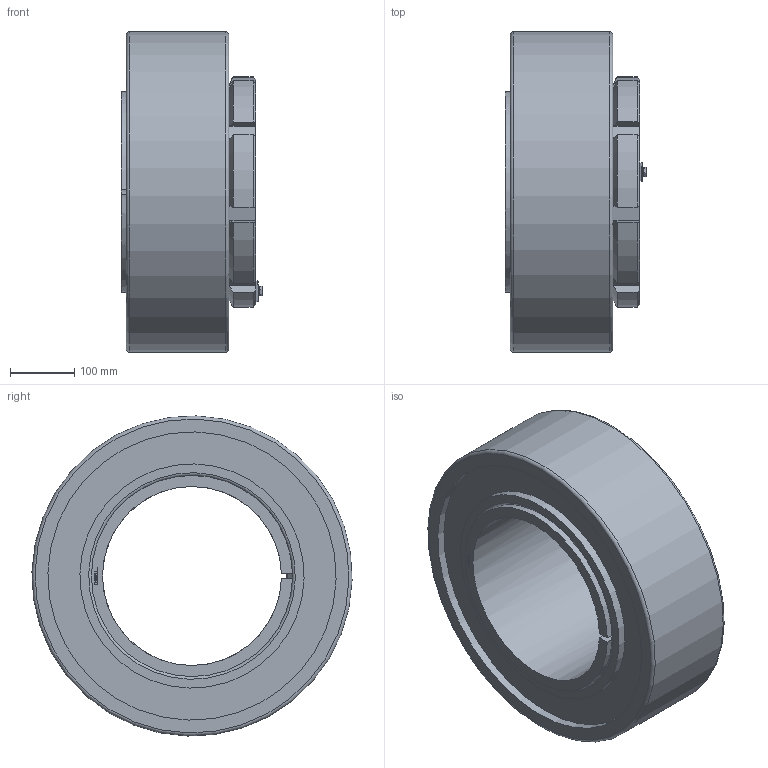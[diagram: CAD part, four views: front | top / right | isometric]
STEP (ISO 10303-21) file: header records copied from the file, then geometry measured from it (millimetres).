
FILE_DESCRIPTION( ( 'STEP AP203' ), ' ' );
FILE_NAME( 'p:/temp/worker_127/4068_3820/app_90_02016102823041991313729192d056f_000000_00_00_000000/format_0/BGL HE 3160 TL+23160K.stp', '2016-10-28T21:04:22', ( '' ), ( '' ), ' ', 'PARTsolutions', ' ' );
FILE_SCHEMA( ( 'CONFIG_CONTROL_DESIGN' ) );
Length unit declared in the file: millimetre
Products named in the file (6): BGL HE 3160 TL+23160K; _BGLHE3160TLB; _BGL HM 3060; _BGLHE3160TL+HE-23160K; _BGL MS 3060part; _BGL MS 3060HHS
Assembly tree (5 placements, depth 2):
  BGL HE 3160 TL+23160K
    _BGLHE3160TLB
    _BGL HM 3060
    _BGLHE3160TL+HE-23160K
    _BGL MS 3060part
    _BGL MS 3060HHS
Bounding box: 221.05 x 499.83 x 499.83 mm (x, y, z)
Volume: 21577510.1 mm3; surface area: 1270839.5 mm2
Topology: 5 solids, 5 shells, 351 faces, 899 edges, 589 vertices
Faces by surface type: plane 230, cylinder 79, cone 38, torus 4
Full cylindrical faces by diameter (mm): 8 x9, 9 x1, 14.8 x1, 296 x1, 350 x2, 450 x2, 500 x1
Entity records: 10762 total; most frequent: CARTESIAN_POINT 2104, DIRECTION 1729, ORIENTED_EDGE 1726, EDGE_CURVE 863, VERTEX_POINT 586, AXIS2_PLACEMENT_3D 577, LINE 575, VECTOR 575
